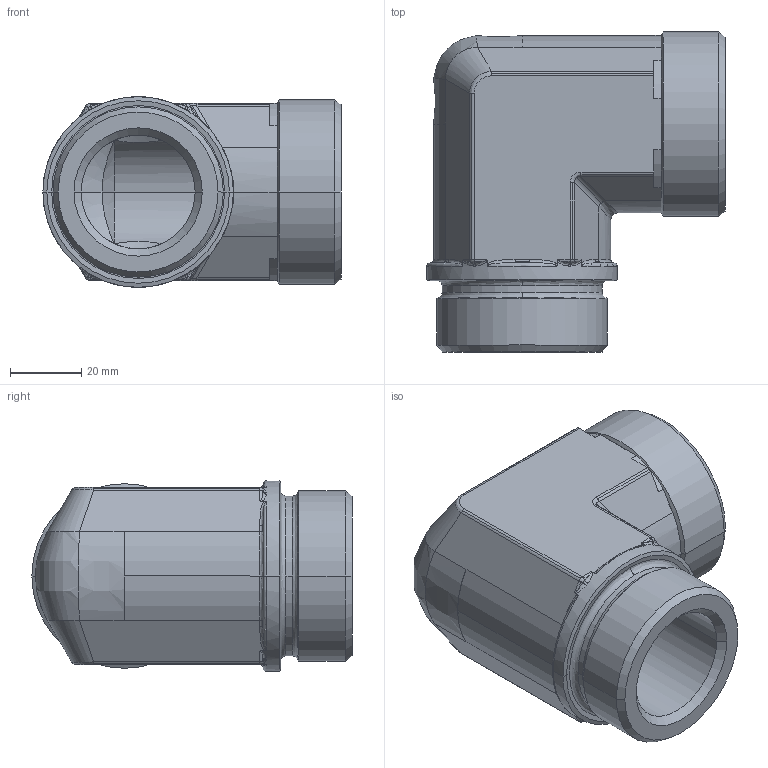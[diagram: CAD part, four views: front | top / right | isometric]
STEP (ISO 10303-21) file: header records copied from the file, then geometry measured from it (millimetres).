
FILE_DESCRIPTION((''),'2;1');
FILE_NAME('102423.stp','2007-10-31T10:31:17',(''),(''),'AutoCAD STEP 2000i','AutoCAD 2000i',', , ');
FILE_SCHEMA(('CONFIG_CONTROL_DESIGN'));
Length unit declared in the file: millimetre
Products named in the file (2): 102423.0; 3090#0
Assembly tree (1 placements, depth 2):
  102423.0
    3090#0
Bounding box: 83.75 x 89.91 x 53.5 mm (x, y, z)
Volume: 141858.6 mm3; surface area: 34534.3 mm2
Topology: 1 solids, 1 shells, 181 faces, 443 edges, 261 vertices
Faces by surface type: cylinder 78, bspline 44, plane 29, cone 24, torus 6
Entity records: 9516 total; most frequent: CARTESIAN_POINT 5334, ORIENTED_EDGE 878, DIRECTION 845, EDGE_CURVE 439, AXIS2_PLACEMENT_3D 350, VERTEX_POINT 261, CIRCLE 193, EDGE_LOOP 184
